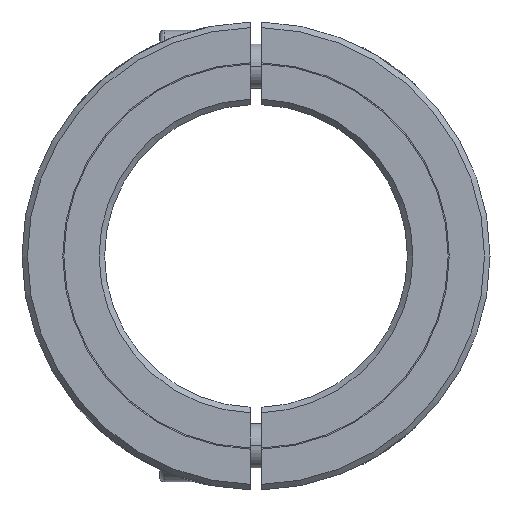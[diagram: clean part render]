
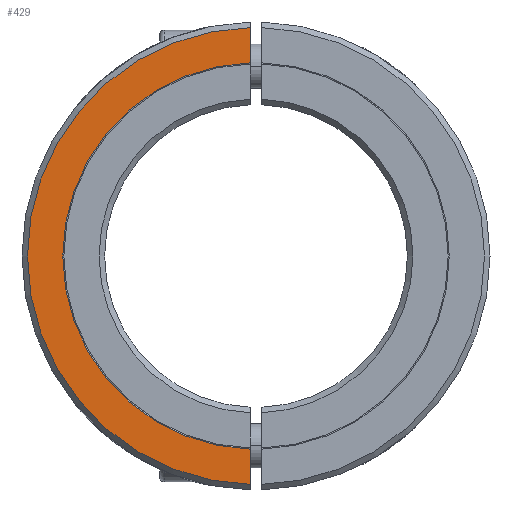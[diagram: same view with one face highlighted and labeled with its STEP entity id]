
A CAD part, left-side view. The second image highlights one B-rep face of the part: STEP entity #429.
In plain terms, the highlighted planar face has unit normal (-1, 0, 0).
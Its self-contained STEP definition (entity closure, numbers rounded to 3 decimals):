
#26=CARTESIAN_POINT('',(-9.5,0.,0.));
#27=DIRECTION('',(-1.,0.,0.));
#28=DIRECTION('',(0.,0.028,1.));
#29=AXIS2_PLACEMENT_3D('',#26,#27,#28);
#31=DIRECTION('',(0.,0.,-1.));
#32=VECTOR('',#31,6.402);
#33=CARTESIAN_POINT('',(-9.5,1.,-35.086));
#34=LINE('',#33,#32);
#35=DIRECTION('',(0.,0.,-1.));
#36=VECTOR('',#35,6.402);
#37=CARTESIAN_POINT('',(-9.5,1.,41.488));
#38=LINE('',#37,#36);
#209=CARTESIAN_POINT('',(-9.5,0.,0.));
#210=DIRECTION('',(1.,0.,0.));
#211=DIRECTION('',(0.,0.024,-1.));
#212=AXIS2_PLACEMENT_3D('',#209,#210,#211);
#374=CARTESIAN_POINT('',(-9.5,1.,-41.488));
#375=CARTESIAN_POINT('',(-9.5,1.,41.488));
#376=VERTEX_POINT('',#374);
#377=VERTEX_POINT('',#375);
#406=CARTESIAN_POINT('',(-9.5,1.,35.086));
#407=CARTESIAN_POINT('',(-9.5,1.,-35.086));
#408=VERTEX_POINT('',#406);
#409=VERTEX_POINT('',#407);
#414=CARTESIAN_POINT('',(-9.5,0.,0.));
#415=DIRECTION('',(1.,0.,0.));
#416=DIRECTION('',(0.,0.,-1.));
#417=AXIS2_PLACEMENT_3D('',#414,#415,#416);
#418=PLANE('',#417);
#420=ORIENTED_EDGE('',*,*,#419,.T.);
#422=ORIENTED_EDGE('',*,*,#421,.T.);
#424=ORIENTED_EDGE('',*,*,#423,.T.);
#426=ORIENTED_EDGE('',*,*,#425,.T.);
#427=EDGE_LOOP('',(#420,#422,#424,#426));
#428=FACE_OUTER_BOUND('',#427,.F.);
#429=ADVANCED_FACE('',(#428),#418,.F.);
#30=CIRCLE('',#29,35.1);
#213=CIRCLE('',#212,41.5);
#419=EDGE_CURVE('',#408,#409,#30,.T.);
#421=EDGE_CURVE('',#409,#376,#34,.T.);
#423=EDGE_CURVE('',#376,#377,#213,.T.);
#425=EDGE_CURVE('',#377,#408,#38,.T.);
